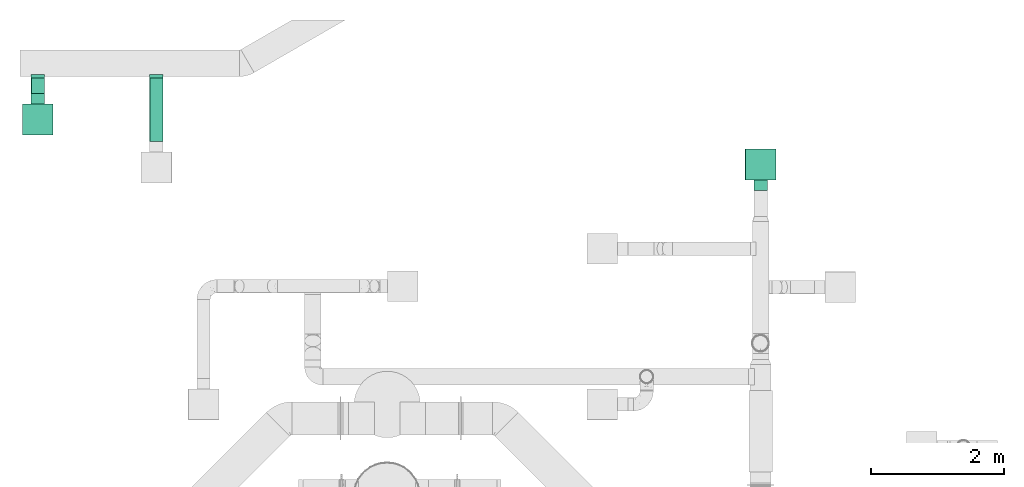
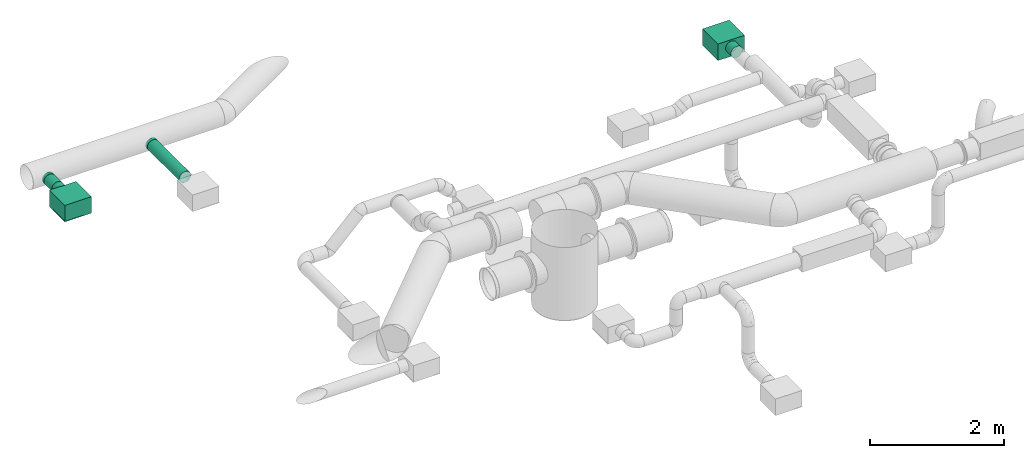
# One storey, part 25 of 31: 2 flow fittings, 2 flow segments, 2 flow terminals.
"""IFC2X3 building model written with IfcOpenShell, lengths in millimetres."""

from ifc_helpers import new_model, entity, si_unit, converted_unit, derived_unit, direction, frame, origin_with_axes, origin_2d_with_axis, place, context, subcontext, project, spatial, hollow_circle, extrude, open_shell, surface_model, source, transform, mapped, type_object, element, save


model = new_model("IFC2X3")

# Units and contexts
model_context = context("Model", 3, precision=0.01, world=frame((0.0, 4.29681676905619e-09, 0.0)), true_north=direction((4.01073788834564e-13, 1.0)))
plan_context = context("Plan", 3, precision=0.01, world=frame((0.0, 4.29681676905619e-09, 0.0)), true_north=direction((4.01073788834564e-13, 1.0)))
body_context = subcontext(model_context, "Body", "Model", "MODEL_VIEW")
ifc_project = project(units=[converted_unit("PLANEANGLEUNIT", "DEGREE", entity("IfcPositiveLengthMeasure", 0.0174532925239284), si_unit("PLANEANGLEUNIT", "RADIAN"), dimensions=[0, 0, 0, 0, 0, 0, 0]), si_unit("AREAUNIT", "SQUARE_METRE"), si_unit("LENGTHUNIT", "METRE", prefix="MILLI"), si_unit("MASSUNIT", "GRAM", prefix="KILO"), si_unit("POWERUNIT", "WATT"), si_unit("PRESSUREUNIT", "PASCAL", prefix="KILO"), si_unit("FORCEUNIT", "NEWTON", prefix="KILO"), si_unit("ELECTRICVOLTAGEUNIT", "VOLT"), si_unit("ELECTRICCURRENTUNIT", "AMPERE"), si_unit("THERMODYNAMICTEMPERATUREUNIT", "DEGREE_CELSIUS"), si_unit("TIMEUNIT", "SECOND"), si_unit("VOLUMEUNIT", "CUBIC_METRE"), derived_unit("LINEARVELOCITYUNIT", [(si_unit("LENGTHUNIT", "METRE"), 1), (si_unit("TIMEUNIT", "SECOND"), -1)]), derived_unit("VOLUMETRICFLOWRATEUNIT", [(si_unit("VOLUMEUNIT", "CUBIC_METRE"), 1), (si_unit("TIMEUNIT", "SECOND"), -1)]), derived_unit("THERMALTRANSMITTANCEUNIT", [(si_unit("POWERUNIT", "WATT"), 1), (si_unit("THERMODYNAMICTEMPERATUREUNIT", "KELVIN"), -1), (si_unit("AREAUNIT", "SQUARE_METRE"), -1)]), derived_unit("SOUNDPRESSUREUNIT", [(si_unit("PRESSUREUNIT", "PASCAL"), 1)])], contexts=[model_context, plan_context])

# Site, building, storey
site_placement = place(None, frame((0.0, -4.29681676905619e-09, 0.0), z_axis=(0.0, 0.0, 1.0), x_axis=(1.0, 0.0, 0.0)))
site = spatial("IfcSite", under=ifc_project, at=site_placement, CompositionType="ELEMENT")
building_placement = place(site_placement, frame((0.0, 4.29681676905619e-09, 0.0), z_axis=(0.0, 0.0, 1.0), x_axis=(1.0, 0.0, 0.0)))
building = spatial("IfcBuilding", under=site, at=building_placement, Name="mc-building", CompositionType="ELEMENT")
storey_placement = place(building_placement, frame((0.0, 0.0, 210900.0), z_axis=(0.0, 0.0, 1.0), x_axis=(1.0, 0.0, 0.0)))
storey = spatial("IfcBuildingStorey", under=building, at=storey_placement, Name="Nivå F", CompositionType="ELEMENT", Elevation=210900.0)

# Flow fittings
duct_fitting_type = type_object("IfcDuctFittingType", Name="magicirc_tapoutlet_001", PredefinedType="CONNECTOR")
shared_shape_1 = source(origin_with_axes(), body_context, "Body", "SurfaceModel", [
    surface_model("IfcShellBasedSurfaceModel", [(25.0, 0.0, -100.0), (25.0, -50.0, -86.60254), (25.0, -25.8819, -96.59259), (25.0, -100.0, 0.0), (25.0, -96.59259, -25.8819), (25.0, -96.59259, 25.8819), (25.0, 25.8819, -96.59259), (25.0, 100.0, 0.0), (25.0, 50.0, -86.60254), (25.0, 70.71068, -70.71068), (25.0, 86.60254, -50.0), (25.0, -70.71068, -70.71068), (25.0, -86.60254, -50.0), (25.0, 96.59259, -25.8819), (25.0, 96.59259, 25.8819), (25.0, 86.60254, 50.0), (25.0, 70.71068, 70.71068), (25.0, 25.8819, 96.59259), (25.0, 50.0, 86.60254), (25.0, -25.8819, 96.59259), (25.0, -70.71068, 70.71068), (25.0, -86.60254, 50.0), (25.0, -50.0, 86.60254), (25.0, 0.0, 100.0), (0.0, 0.0, 100.0), (0.0, 25.8819, 96.59259), (0.0, 50.0, 86.60254), (0.0, 70.71068, 70.71068), (0.0, 86.60254, 50.0), (0.0, 96.59259, 25.8819), (0.0, 100.0, 0.0), (0.0, 96.59259, -25.8819), (0.0, 86.60254, -50.0), (0.0, 70.71068, -70.71068), (0.0, 25.8819, -96.59259), (0.0, 50.0, -86.60254), (0.0, 0.0, -100.0), (0.0, -25.8819, -96.59259), (0.0, -50.0, -86.60254), (0.0, -70.71068, -70.71068), (0.0, -86.60254, -50.0), (0.0, -96.59259, -25.8819), (0.0, -100.0, 0.0), (0.0, -96.59259, 25.8819), (0.0, -86.60254, 50.0), (0.0, -70.71068, 70.71068), (0.0, -50.0, 86.60254), (0.0, -25.8819, 96.59259), (-32.89092, 0.0, -100.0), (-32.89092, -25.8819, -96.59259), (-32.89092, 25.8819, -96.59259), (-32.89092, 96.59259, 25.8819), (-32.89092, 50.0, -86.60254), (-32.89092, 86.60254, -50.0), (-32.89092, 70.71068, -70.71068), (-32.89092, -100.0, 0.0), (-32.89092, -96.59259, 25.8819), (-32.89092, -70.71068, -70.71068), (-32.89092, -50.0, -86.60254), (-32.89092, -96.59259, -25.8819), (-32.89092, -86.60254, -50.0), (-32.89092, 96.59259, -25.8819), (-32.89092, 86.60254, 50.0), (-32.89092, 70.71068, 70.71068), (-32.89092, 50.0, 86.60254), (-32.89092, 25.8819, 96.59259), (-32.89092, 0.0, 100.0), (-32.89092, -86.60254, 50.0), (-32.89092, -70.71068, 70.71068), (-32.89092, -25.8819, 96.59259), (-32.89092, -50.0, 86.60254), (-32.89092, 100.0, 0.0)], [open_shell([[[0, 1, 2]], [[3, 4, 5]], [[6, 7, 0]], [[8, 7, 6]], [[7, 9, 10]], [[7, 8, 9]], [[11, 0, 5]], [[0, 11, 1]], [[12, 5, 4]], [[5, 12, 11]], [[7, 10, 13]], [[14, 15, 0]], [[15, 16, 0]], [[17, 0, 18]], [[0, 16, 18]], [[0, 17, 19]], [[0, 20, 21]], [[5, 0, 21]], [[0, 22, 20]], [[19, 22, 0]], [[17, 23, 19]], [[14, 0, 7]], [[24, 23, 17]], [[25, 17, 18]], [[24, 17, 25]], [[26, 16, 27]], [[26, 25, 18]], [[16, 26, 18]], [[28, 15, 14]], [[29, 14, 7]], [[27, 15, 28]], [[29, 28, 14]], [[30, 29, 7]], [[15, 27, 16]], [[30, 7, 13]], [[31, 13, 10]], [[30, 13, 31]], [[32, 9, 33]], [[32, 31, 10]], [[9, 32, 10]], [[6, 0, 34]], [[8, 6, 35]], [[33, 8, 35]], [[36, 34, 0]], [[6, 34, 35]], [[8, 33, 9]], [[36, 0, 2]], [[37, 2, 1]], [[36, 2, 37]], [[38, 11, 39]], [[38, 37, 1]], [[11, 38, 1]], [[40, 12, 4]], [[41, 4, 3]], [[39, 12, 40]], [[41, 40, 4]], [[42, 41, 3]], [[12, 39, 11]], [[42, 3, 5]], [[43, 5, 21]], [[42, 5, 43]], [[44, 20, 45]], [[44, 43, 21]], [[20, 44, 21]], [[46, 22, 19]], [[47, 19, 23]], [[45, 22, 46]], [[47, 46, 19]], [[24, 47, 23]], [[22, 45, 20]], [[15, 0, 14]], [[0, 15, 18]], [[18, 15, 16]], [[19, 0, 17]], [[0, 21, 5]], [[20, 21, 0]], [[20, 0, 22]], [[48, 49, 50]], [[50, 51, 52]], [[53, 54, 51]], [[51, 54, 52]], [[50, 55, 56]], [[57, 55, 58]], [[50, 49, 58]], [[59, 55, 60]], [[57, 60, 55]], [[58, 55, 50]], [[61, 53, 51]], [[62, 51, 50]], [[50, 63, 62]], [[64, 50, 65]], [[64, 63, 50]], [[66, 65, 50]], [[67, 68, 50]], [[50, 56, 67]], [[69, 66, 70]], [[50, 68, 70]], [[70, 66, 50]], [[71, 61, 51]], [[66, 24, 25]], [[65, 25, 26]], [[66, 25, 65]], [[64, 27, 63]], [[64, 65, 26]], [[27, 64, 26]], [[62, 28, 29]], [[51, 29, 30]], [[63, 28, 62]], [[51, 62, 29]], [[71, 51, 30]], [[28, 63, 27]], [[71, 30, 31]], [[61, 31, 32]], [[71, 31, 61]], [[53, 33, 54]], [[53, 61, 32]], [[33, 53, 32]], [[34, 36, 50]], [[35, 34, 52]], [[54, 35, 52]], [[48, 50, 36]], [[34, 50, 52]], [[35, 54, 33]], [[48, 36, 37]], [[49, 37, 38]], [[48, 37, 49]], [[58, 39, 57]], [[58, 49, 38]], [[39, 58, 38]], [[60, 40, 41]], [[59, 41, 42]], [[57, 40, 60]], [[59, 60, 41]], [[55, 59, 42]], [[40, 57, 39]], [[55, 42, 43]], [[56, 43, 44]], [[55, 43, 56]], [[67, 45, 68]], [[67, 56, 44]], [[45, 67, 44]], [[70, 46, 47]], [[69, 47, 24]], [[68, 46, 70]], [[69, 70, 47]], [[66, 69, 24]], [[46, 68, 45]], [[54, 52, 51]], [[53, 51, 61]]])]),
])
for number, where, z_axis, x_axis, name in (
    (1, (716490.41709, 445360.86213, 3420.0), (0.0, 0.0, -1.0), (0.0, -1.0, 0.0), "magicirc_tapoutlet_001"),
    (2, (714705.53384, 445360.86213, 3420.0), (0.0, 0.0, -1.0), (0.0, -1.0, 0.0), "magicirc_tapoutlet_001"),
):
    element("IfcFlowFitting", number, at=place(storey_placement, frame(where, z_axis=z_axis, x_axis=x_axis)), inside=storey, type_object=duct_fitting_type, Name=name, context=body_context, shape_type="MappedRepresentation", body=[
        mapped(shared_shape_1, transform((0.0, 0.0, 0.0), scale=1.0)),
    ])

# Flow segments
duct_segment_type = type_object("IfcDuctSegmentType", Name="KK001T - Spiro kanaler, Forsinket stål", PredefinedType="RIGIDSEGMENT")
shared_shape_2 = source(origin_with_axes(), body_context, "Body", "SweptSolid", [
    extrude(hollow_circle(Radius=100.0, WallThickness=2.0, at=origin_2d_with_axis()), frame((0.0, 0.0, 0.0), z_axis=(1.0, 0.0, 0.0), x_axis=(0.0, 1.0, 0.0)), (0.0, 0.0, 1.0), 953.9),
])
flow_segment_1_placement = place(storey_placement, frame((716490.41709, 445335.86213, 3420.0), z_axis=(0.0, 0.0, 1.0), x_axis=(0.0, -1.0, 0.0)))
element("IfcFlowSegment", 3, at=flow_segment_1_placement, inside=storey, type_object=duct_segment_type, Name="KK001T - Spiro kanaler, Forsinket stål", context=body_context, shape_type="MappedRepresentation", body=[
    mapped(shared_shape_2, transform((0.0, 0.0, 0.0), scale=1.0)),
])
shared_shape_3 = source(origin_with_axes(), body_context, "Body", "SweptSolid", [
    extrude(hollow_circle(Radius=100.0, WallThickness=2.0, at=origin_2d_with_axis()), frame((0.0, 0.0, 0.0), z_axis=(1.0, 0.0, 0.0), x_axis=(0.0, 1.0, 0.0)), (0.0, 0.0, 1.0), 232.0),
])
flow_segment_2_placement = place(storey_placement, frame((714705.53384, 445335.86213, 3420.0), z_axis=(0.0, 0.0, 1.0), x_axis=(0.0, -1.0, 0.0)))
element("IfcFlowSegment", 4, at=flow_segment_2_placement, inside=storey, type_object=duct_segment_type, Name="KK001T - Spiro kanaler, Forsinket stål", context=body_context, shape_type="MappedRepresentation", body=[
    mapped(shared_shape_3, transform((0.0, 0.0, 0.0), scale=1.0)),
])

# Flow terminals
air_terminal_type = type_object("IfcAirTerminalType", Name="NS19-H-S-2-200 - 4-way", PredefinedType="NOTDEFINED")
shared_shape_4 = source(origin_with_axes(), body_context, "Body", "SurfaceModel", [
    surface_model("IfcShellBasedSurfaceModel", [(-231.99999, 231.99999, 0.0), (-231.99999, -231.99999, 0.0), (231.99999, -231.99999, 0.0), (231.99999, 231.99999, 0.0), (231.99999, 231.99999, -10.0), (231.99999, -231.99999, -10.0), (-231.99999, -231.99999, -10.0), (-231.99999, 231.99999, -10.0), (-230.0, 230.0, 289.99999), (-230.0, -230.0, 289.99999), (230.0, -230.0, 289.99999), (230.0, 230.0, 289.99999), (230.0, 230.0, 0.0), (230.0, -230.0, 0.0), (-230.0, -230.0, 0.0), (-230.0, 230.0, 0.0), (-230.0, 50.0, 78.39746), (-230.0, 70.71068, 94.28932), (-230.0, 49.9, 78.57067), (-230.0, 25.83014, 68.6006), (-230.0, 0.0, 65.2), (-230.0, 25.8819, 68.40742), (-230.0, 0.0, 65.0), (-230.0, 70.56926, 94.43075), (-230.0, 96.59259, 139.1181), (-230.0, 99.8, 164.99999), (-230.0, 96.39939, 139.16986), (-230.0, 100.0, 164.99999), (-230.0, 86.60254, 115.0), (-230.0, 86.42934, 115.1), (-230.0, -25.83014, 68.6006), (-230.0, -25.8819, 68.40742), (-230.0, -49.9, 78.57067), (-230.0, -70.71068, 94.28932), (-230.0, -50.0, 78.39746), (-230.0, -70.56926, 94.43075), (-230.0, -86.42934, 115.1), (-230.0, -86.60254, 115.0), (-230.0, -96.39939, 139.16986), (-230.0, -96.59259, 139.1181), (-230.0, -99.8, 164.99999), (-230.0, -100.0, 164.99999), (-230.0, 96.59259, 190.8819), (-230.0, 96.39939, 190.83014), (-230.0, 86.42934, 214.9), (-230.0, 86.60254, 214.99999), (-230.0, 70.56926, 235.56925), (-230.0, 70.71068, 235.71069), (-230.0, 50.0, 251.60254), (-230.0, 49.9, 251.42933), (-230.0, 25.83014, 261.3994), (-230.0, 25.8819, 261.59259), (-230.0, 0.0, 264.80001), (-230.0, 0.0, 264.99999), (-230.0, -86.60254, 214.99999), (-230.0, -86.42934, 214.9), (-230.0, -70.71068, 235.71069), (-230.0, -70.56926, 235.56925), (-230.0, -96.59259, 190.8819), (-230.0, -96.39939, 190.83014), (-230.0, -25.83014, 261.3994), (-230.0, -25.8819, 261.59259), (-230.0, -49.9, 251.42933), (-230.0, -50.0, 251.60254), (-390.0, 50.0, 251.60254), (-390.0, 70.71068, 235.71069), (-390.0, 49.9, 251.42933), (-390.0, 25.83014, 261.3994), (-390.0, 0.0, 264.80001), (-390.0, 25.8819, 261.59259), (-390.0, 0.0, 264.99999), (-390.0, 70.56926, 235.56925), (-390.0, 96.59259, 190.8819), (-390.0, 99.8, 164.99999), (-390.0, 96.39939, 190.83014), (-390.0, 100.0, 164.99999), (-390.0, 86.60254, 214.99999), (-390.0, 86.42934, 214.9), (-390.0, -25.83014, 261.3994), (-390.0, -25.8819, 261.59259), (-390.0, -49.9, 251.42933), (-390.0, -70.71068, 235.71069), (-390.0, -50.0, 251.60254), (-390.0, -70.56926, 235.56925), (-390.0, -86.42934, 214.9), (-390.0, -86.60254, 214.99999), (-390.0, -96.39939, 190.83014), (-390.0, -96.59259, 190.8819), (-390.0, -99.8, 164.99999), (-390.0, -100.0, 164.99999), (-390.0, 96.59259, 139.1181), (-390.0, 96.39939, 139.16986), (-390.0, 86.42934, 115.1), (-390.0, 86.60254, 115.0), (-390.0, 70.56926, 94.43075), (-390.0, 70.71068, 94.28932), (-390.0, 50.0, 78.39746), (-390.0, 49.9, 78.57067), (-390.0, 25.83014, 68.6006), (-390.0, 25.8819, 68.40742), (-390.0, 0.0, 65.2), (-390.0, 0.0, 65.0), (-390.0, -86.60254, 115.0), (-390.0, -86.42934, 115.1), (-390.0, -70.71068, 94.28932), (-390.0, -70.56926, 94.43075), (-390.0, -96.59259, 139.1181), (-390.0, -96.39939, 139.16986), (-390.0, -25.83014, 68.6006), (-390.0, -25.8819, 68.40742), (-390.0, -49.9, 78.57067), (-390.0, -50.0, 78.39746)], [open_shell([[[0, 1, 2]], [[2, 3, 0]], [[4, 5, 6]], [[6, 7, 4]], [[2, 1, 6]], [[6, 5, 2]], [[3, 2, 5]], [[5, 4, 3]], [[0, 3, 4]], [[4, 7, 0]], [[1, 0, 7]], [[7, 6, 1]], [[8, 9, 10]], [[10, 11, 8]], [[12, 13, 14]], [[14, 15, 12]], [[10, 9, 13]], [[14, 13, 9]], [[11, 10, 12]], [[13, 12, 10]], [[8, 11, 15]], [[12, 15, 11]], [[9, 8, 14]], [[15, 14, 8]], [[16, 17, 18]], [[16, 18, 19]], [[20, 21, 19]], [[21, 20, 22]], [[19, 21, 16]], [[18, 17, 23]], [[24, 25, 26]], [[25, 24, 27]], [[24, 26, 28]], [[23, 28, 29]], [[28, 23, 17]], [[29, 28, 26]], [[22, 30, 31]], [[31, 30, 32]], [[33, 34, 35]], [[32, 34, 31]], [[32, 35, 34]], [[22, 20, 30]], [[36, 37, 33]], [[37, 36, 38]], [[36, 33, 35]], [[39, 38, 40]], [[38, 39, 37]], [[39, 40, 41]], [[27, 42, 43]], [[43, 42, 44]], [[44, 45, 46]], [[45, 44, 42]], [[46, 45, 47]], [[47, 48, 49]], [[49, 48, 50]], [[50, 51, 52]], [[51, 50, 48]], [[52, 51, 53]], [[49, 46, 47]], [[54, 55, 56]], [[56, 55, 57]], [[55, 54, 58]], [[41, 59, 58]], [[58, 59, 55]], [[41, 40, 59]], [[60, 53, 61]], [[60, 61, 62]], [[57, 63, 56]], [[57, 62, 63]], [[63, 62, 61]], [[52, 53, 60]], [[43, 25, 27]], [[64, 65, 66]], [[64, 66, 67]], [[68, 69, 67]], [[69, 68, 70]], [[67, 69, 64]], [[66, 65, 71]], [[72, 73, 74]], [[73, 72, 75]], [[72, 74, 76]], [[71, 76, 77]], [[76, 71, 65]], [[77, 76, 74]], [[70, 78, 79]], [[79, 78, 80]], [[81, 82, 83]], [[80, 82, 79]], [[80, 83, 82]], [[70, 68, 78]], [[84, 85, 81]], [[85, 84, 86]], [[84, 81, 83]], [[87, 86, 88]], [[86, 87, 85]], [[87, 88, 89]], [[75, 90, 91]], [[91, 90, 92]], [[92, 93, 94]], [[93, 92, 90]], [[94, 93, 95]], [[95, 96, 97]], [[97, 96, 98]], [[98, 99, 100]], [[99, 98, 96]], [[100, 99, 101]], [[97, 94, 95]], [[102, 103, 104]], [[104, 103, 105]], [[103, 102, 106]], [[89, 107, 106]], [[106, 107, 103]], [[89, 88, 107]], [[108, 101, 109]], [[108, 109, 110]], [[105, 111, 104]], [[105, 110, 111]], [[111, 110, 109]], [[100, 101, 108]], [[91, 73, 75]], [[39, 106, 102]], [[104, 37, 102]], [[34, 111, 109]], [[104, 111, 33]], [[31, 109, 101]], [[106, 41, 89]], [[106, 39, 41]], [[102, 37, 39]], [[104, 33, 37]], [[34, 33, 111]], [[109, 31, 34]], [[101, 22, 31]], [[21, 99, 96]], [[95, 16, 96]], [[28, 93, 90]], [[95, 93, 17]], [[24, 90, 75]], [[99, 21, 22]], [[96, 16, 21]], [[95, 17, 16]], [[93, 28, 17]], [[24, 28, 90]], [[75, 27, 24]], [[99, 22, 101]], [[75, 72, 42]], [[48, 64, 69]], [[64, 47, 65]], [[51, 69, 70]], [[72, 45, 42]], [[42, 27, 75]], [[76, 47, 45]], [[76, 65, 47]], [[47, 64, 48]], [[69, 51, 48]], [[76, 45, 72]], [[70, 53, 51]], [[61, 79, 82]], [[81, 63, 82]], [[54, 85, 87]], [[81, 85, 56]], [[58, 87, 89]], [[79, 61, 53]], [[82, 63, 61]], [[81, 56, 63]], [[85, 54, 56]], [[58, 54, 87]], [[89, 41, 58]], [[79, 53, 70]], [[103, 107, 38]], [[103, 36, 105]], [[108, 110, 32]], [[35, 110, 105]], [[100, 108, 30]], [[88, 40, 107]], [[40, 38, 107]], [[38, 36, 103]], [[36, 35, 105]], [[110, 35, 32]], [[32, 30, 108]], [[30, 20, 100]], [[97, 98, 19]], [[97, 18, 94]], [[91, 92, 29]], [[23, 92, 94]], [[73, 91, 26]], [[20, 19, 98]], [[19, 18, 97]], [[18, 23, 94]], [[23, 29, 92]], [[91, 29, 26]], [[26, 25, 73]], [[100, 20, 98]], [[43, 74, 73]], [[67, 66, 49]], [[71, 46, 66]], [[68, 67, 50]], [[43, 44, 74]], [[73, 25, 43]], [[44, 46, 77]], [[46, 71, 77]], [[49, 66, 46]], [[49, 50, 67]], [[74, 44, 77]], [[50, 52, 68]], [[80, 78, 60]], [[80, 62, 83]], [[86, 84, 55]], [[57, 84, 83]], [[88, 86, 59]], [[52, 60, 78]], [[60, 62, 80]], [[62, 57, 83]], [[57, 55, 84]], [[86, 55, 59]], [[59, 40, 88]], [[68, 52, 78]]])]),
])
for number, where, z_axis, x_axis in (
    (5, (714705.53384, 444713.80206, 3254.98813000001), (0.0, 0.0, 1.0), (0.0, -1.0, 0.0)),
    (6, (725584.4603, 444036.27303, 2799.98813000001), (0.0, 0.0, 1.0), (0.0, 1.0, 0.0)),
):
    element("IfcFlowTerminal", number, at=place(storey_placement, frame(where, z_axis=z_axis, x_axis=x_axis)), inside=storey, type_object=air_terminal_type, Name="NS19-H-S-2-200 - 4-way", context=body_context, shape_type="MappedRepresentation", body=[
        mapped(shared_shape_4, transform((0.0, 0.0, 0.0), scale=1.0)),
    ])

save(model, "model.ifc")
